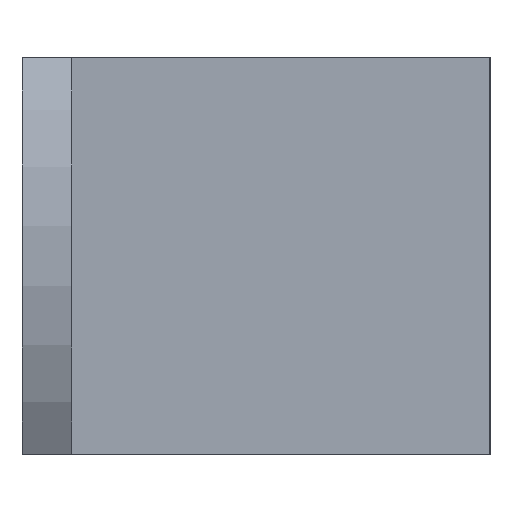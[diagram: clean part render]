
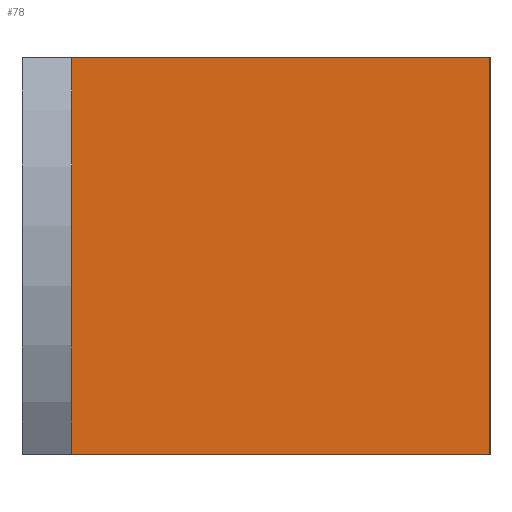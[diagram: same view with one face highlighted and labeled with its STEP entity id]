
A CAD part, left-side view. The second image highlights one B-rep face of the part: STEP entity #78.
In plain terms, the highlighted planar face has unit normal (-1, 0, 0).
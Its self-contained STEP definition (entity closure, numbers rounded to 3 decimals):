
#78 = ADVANCED_FACE( '', ( #165 ), #166, .F. );
#165 = FACE_OUTER_BOUND( '', #258, .T. );
#166 = PLANE( '', #259 );
#258 = EDGE_LOOP( '', ( #415, #416, #417, #418 ) );
#259 = AXIS2_PLACEMENT_3D( '', #419, #420, #421 );
#415 = ORIENTED_EDGE( '', *, *, #590, .T. );
#416 = ORIENTED_EDGE( '', *, *, #558, .F. );
#417 = ORIENTED_EDGE( '', *, *, #591, .F. );
#418 = ORIENTED_EDGE( '', *, *, #571, .T. );
#419 = CARTESIAN_POINT( '', ( -4., -3.5, 14. ) );
#420 = DIRECTION( '', ( 1., 0., 0. ) );
#421 = DIRECTION( '', ( 0., 0., -1. ) );
#558 = EDGE_CURVE( '', #669, #664, #671, .T. );
#571 = EDGE_CURVE( '', #691, #689, #692, .T. );
#590 = EDGE_CURVE( '', #689, #664, #717, .T. );
#591 = EDGE_CURVE( '', #691, #669, #718, .T. );
#664 = VERTEX_POINT( '', #813 );
#669 = VERTEX_POINT( '', #820 );
#671 = LINE( '', #823, #824 );
#689 = VERTEX_POINT( '', #846 );
#691 = VERTEX_POINT( '', #849 );
#692 = LINE( '', #850, #851 );
#717 = LINE( '', #885, #886 );
#718 = LINE( '', #887, #888 );
#813 = CARTESIAN_POINT( '', ( -4., -33., -14. ) );
#820 = CARTESIAN_POINT( '', ( -4., -33., 14. ) );
#823 = CARTESIAN_POINT( '', ( -4., -33., 14. ) );
#824 = VECTOR( '', #969, 1000. );
#846 = CARTESIAN_POINT( '', ( -4., -3.5, -14. ) );
#849 = CARTESIAN_POINT( '', ( -4., -3.5, 14. ) );
#850 = CARTESIAN_POINT( '', ( -4., -3.5, 14. ) );
#851 = VECTOR( '', #987, 1000. );
#885 = CARTESIAN_POINT( '', ( -4., -3.5, -14. ) );
#886 = VECTOR( '', #1003, 1000. );
#887 = CARTESIAN_POINT( '', ( -4., -3.5, 14. ) );
#888 = VECTOR( '', #1004, 1000. );
#969 = DIRECTION( '', ( 0., 0., -1. ) );
#987 = DIRECTION( '', ( 0., 0., -1. ) );
#1003 = DIRECTION( '', ( 0., -1., 0. ) );
#1004 = DIRECTION( '', ( 0., -1., 0. ) );
